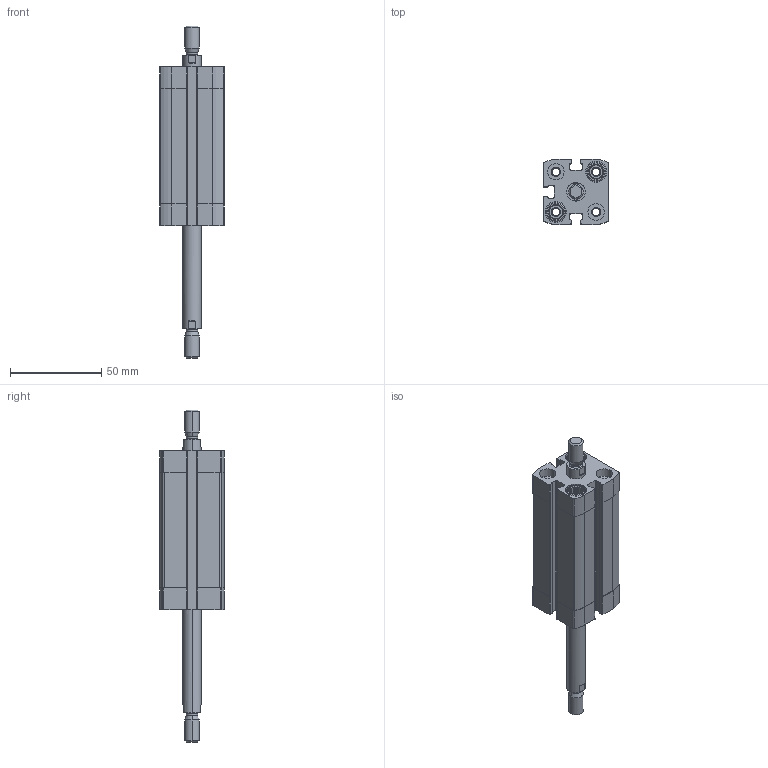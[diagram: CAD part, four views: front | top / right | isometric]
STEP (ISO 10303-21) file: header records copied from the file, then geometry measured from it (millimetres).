
FILE_DESCRIPTION (( 'STEP AP203' ), '1' );
FILE_NAME ('CCN20-50-P.STEP', '2020-06-22T18:40:46', ( '' ), ( '' ), 'SwSTEP 2.0', 'SolidWorks 2019', '' );
FILE_SCHEMA (( 'CONFIG_CONTROL_DESIGN' ));
Length unit declared in the file: millimetre
Products named in the file (1): CCN20-50-P
Bounding box: 35.5 x 35.5 x 181.5 mm (x, y, z)
Volume: 83069.9 mm3; surface area: 36005.1 mm2
Topology: 2 solids, 2 shells, 428 faces, 1120 edges, 728 vertices
Faces by surface type: plane 236, cylinder 140, cone 44, torus 8
Entity records: 13423 total; most frequent: CARTESIAN_POINT 2577, DIRECTION 2314, ORIENTED_EDGE 2240, EDGE_CURVE 1120, AXIS2_PLACEMENT_3D 865, VERTEX_POINT 728, LINE 584, VECTOR 584
